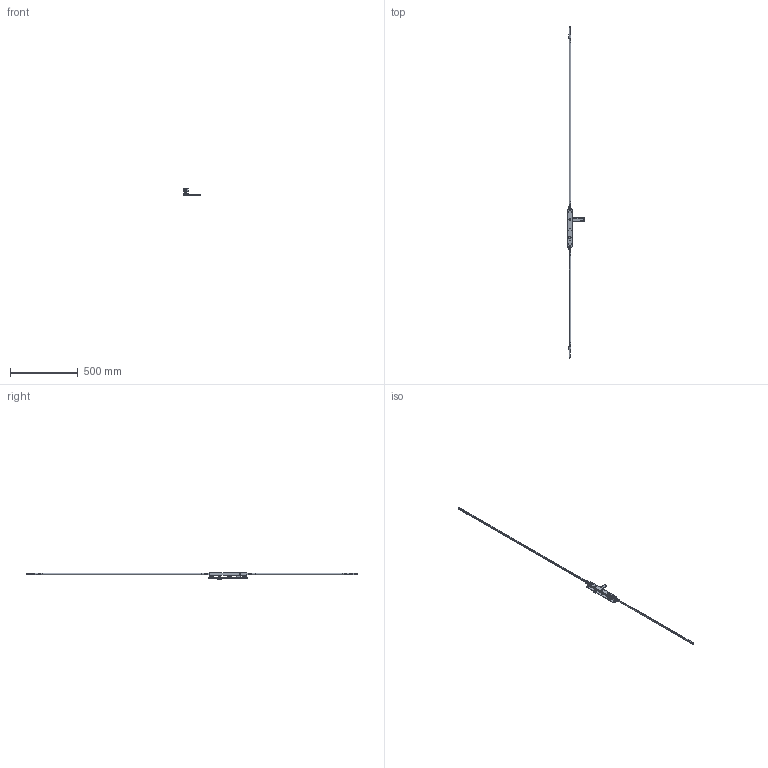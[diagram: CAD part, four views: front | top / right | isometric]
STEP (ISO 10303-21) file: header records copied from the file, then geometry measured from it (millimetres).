
FILE_DESCRIPTION (( 'STEP AP214' ), '1' );
FILE_NAME ('TPL-H-APC-104-A 17Oct2024.STEP', '2024-10-17T04:34:48', ( '' ), ( '' ), 'SwSTEP 2.0', 'SolidWorks 2023', '' );
FILE_SCHEMA (( 'AUTOMOTIVE_DESIGN' ));
Length unit declared in the file: millimetre
Products named in the file (17): Copy of LKC-505 Swing handle zinc - simplified^Copy of TPGen2 handle keyed internal zinc - simplified_TPL-H-APC-605 16Oct2024; Copy of TPL-023 Lock cylinder single 5 pin 32mm^TPL-H-APC-605 16Oct2024_Right; Copy of LKC-584 Pivot body zinc - simplified^Copy of TPGen2 handle keyed internal zinc - simplified_TPL-H-APC-605 16Oct2024; TPL-H-APC-104-A 17Oct2024; Copy of TPL-H-APC-517 04Oct2024^TPL-H-APC-605 16Oct2024; Copy (2) of LKC-540 Transmission rod aluminium system TPLGen2^TPL-H-APC-605 16Oct2024_2885mm; Copy of TPGen2 handle keyed internal zinc - simplified^TPL-H-APC-605 16Oct2024_Left; Copy of TPLGen2 lock body keyed assembly^TPL-H-APC-605 16Oct2024_Bolts retracted - right; Copy of LKC-576 Bolt adaptor - simplified^TPL-H-APC-605 16Oct2024; Copy of TPLGen2 lock body keyed^Copy of TPLGen2 lock body keyed assembly_TPL-H-APC-605 16Oct2024_Right; Copy of LKC-540 Transmission rod aluminium system TPLGen2^TPL-H-APC-605 16Oct2024_2885mm; Copy of LKC-512 Escutcheon plate keyed internal 285mm long zinc - simplified^Copy of TPGen2 handle keyed internal zinc - simplified_TPL-H-APC-605 16Oct2024; Copy of LKC-585 Rotator body zinc^Copy of TPGen2 handle keyed internal zinc - simplified_TPL-H-APC-605 16Oct2024; Copy of LKC-586 Spindle square 8mm with M4 hole^Copy of TPGen2 handle keyed internal zinc - simplified_TPL-H-APC-605 16Oct2024_37mm; Copy of TPLGen2 push rod - simplified^Copy of TPLGen2 lock body keyed assembly_TPL-H-APC-605 16Oct2024_Female thread M10; Copy of TPL-H-APC-515 04Oct2024^TPL-H-APC-605 16Oct2024; Copy of LKC-532 Rod connector - simplified^TPL-H-APC-605 16Oct2024
Assembly tree (22 placements, depth 3):
  TPL-H-APC-104-A 17Oct2024
    Copy of TPLGen2 lock body keyed assembly^TPL-H-APC-605 16Oct2024_Bolts retracted - right
      Copy of TPLGen2 lock body keyed^Copy of TPLGen2 lock body keyed assembly_TPL-H-APC-605 16Oct2024_Right
      Copy of TPLGen2 push rod - simplified^Copy of TPLGen2 lock body keyed assembly_TPL-H-APC-605 16Oct2024_Female thread M10  x2
    Copy of TPGen2 handle keyed internal zinc - simplified^TPL-H-APC-605 16Oct2024_Left
      Copy of LKC-512 Escutcheon plate keyed internal 285mm long zinc - simplified^Copy of TPGen2 handle keyed internal zinc - simplified_TPL-H-APC-605 16Oct2024
      Copy of LKC-505 Swing handle zinc - simplified^Copy of TPGen2 handle keyed internal zinc - simplified_TPL-H-APC-605 16Oct2024
      Copy of LKC-585 Rotator body zinc^Copy of TPGen2 handle keyed internal zinc - simplified_TPL-H-APC-605 16Oct2024
      Copy of LKC-586 Spindle square 8mm with M4 hole^Copy of TPGen2 handle keyed internal zinc - simplified_TPL-H-APC-605 16Oct2024_37mm
      Copy of LKC-584 Pivot body zinc - simplified^Copy of TPGen2 handle keyed internal zinc - simplified_TPL-H-APC-605 16Oct2024
    Copy of LKC-532 Rod connector - simplified^TPL-H-APC-605 16Oct2024  x2
    Copy of LKC-540 Transmission rod aluminium system TPLGen2^TPL-H-APC-605 16Oct2024_2885mm
    Copy (2) of LKC-540 Transmission rod aluminium system TPLGen2^TPL-H-APC-605 16Oct2024_2885mm
    Copy of LKC-576 Bolt adaptor - simplified^TPL-H-APC-605 16Oct2024  x2
    Copy of TPL-H-APC-517 04Oct2024^TPL-H-APC-605 16Oct2024  x2
    Copy of TPL-H-APC-515 04Oct2024^TPL-H-APC-605 16Oct2024  x3
    Copy of TPL-023 Lock cylinder single 5 pin 32mm^TPL-H-APC-605 16Oct2024_Right
Bounding box: 125.62 x 2445.9 x 51.46 mm (x, y, z)
Volume: 341166.2 mm3; surface area: 230537.4 mm2
Topology: 20 solids, 20 shells, 1319 faces, 3207 edges, 1942 vertices
Faces by surface type: cylinder 431, plane 395, bspline 224, cone 123, torus 113, sphere 33
Entity records: 33180 total; most frequent: CARTESIAN_POINT 13173, ORIENTED_EDGE 4218, DIRECTION 3916, EDGE_CURVE 2109, AXIS2_PLACEMENT_3D 1552, VERTEX_POINT 1287, EDGE_LOOP 988, FACE_OUTER_BOUND 889
